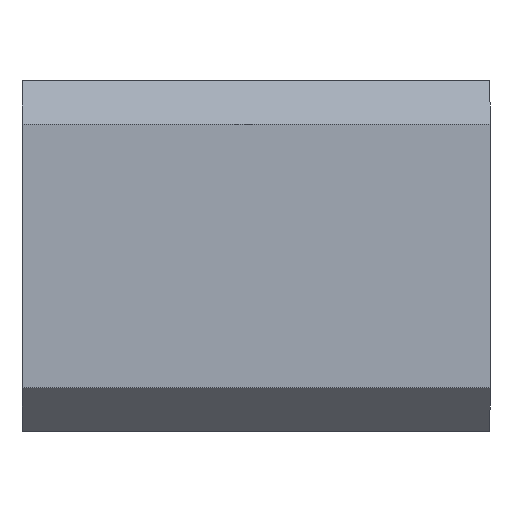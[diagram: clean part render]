
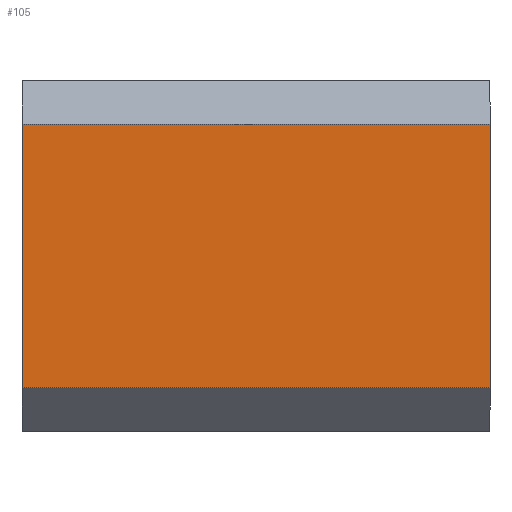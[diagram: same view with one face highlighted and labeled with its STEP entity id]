
A CAD part, left-side view. The second image highlights one B-rep face of the part: STEP entity #105.
In plain terms, the highlighted planar face has unit normal (-1, 0, 0).
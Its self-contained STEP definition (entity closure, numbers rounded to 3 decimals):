
#1 = VERTEX_POINT ( 'NONE', #135 ) ;
#16 = VECTOR ( 'NONE', #372, 1000. ) ;
#72 = CARTESIAN_POINT ( 'NONE',  ( -32.255, -5.186, 6. ) ) ;
#101 = LINE ( 'NONE', #436, #359 ) ;
#105 = ADVANCED_FACE ( 'NONE', ( #117 ), #510, .T. ) ;
#117 = FACE_OUTER_BOUND ( 'NONE', #138, .T. ) ;
#131 = ORIENTED_EDGE ( 'NONE', *, *, #442, .F. ) ;
#135 = CARTESIAN_POINT ( 'NONE',  ( -32.255, 10.814, 1.5 ) ) ;
#138 = EDGE_LOOP ( 'NONE', ( #230, #240, #597, #131 ) ) ;
#156 = CARTESIAN_POINT ( 'NONE',  ( -32.255, 10.814, 10.5 ) ) ;
#188 = EDGE_CURVE ( 'NONE', #1, #395, #422, .T. ) ;
#230 = ORIENTED_EDGE ( 'NONE', *, *, #188, .F. ) ;
#240 = ORIENTED_EDGE ( 'NONE', *, *, #584, .T. ) ;
#260 = LINE ( 'NONE', #72, #16 ) ;
#268 = VECTOR ( 'NONE', #604, 1000. ) ;
#293 = CARTESIAN_POINT ( 'NONE',  ( -32.255, 10.814, 6. ) ) ;
#316 = AXIS2_PLACEMENT_3D ( 'NONE', #495, #610, #522 ) ;
#317 = DIRECTION ( 'NONE',  ( 0., -1., 0. ) ) ;
#327 = VERTEX_POINT ( 'NONE', #567 ) ;
#332 = LINE ( 'NONE', #446, #268 ) ;
#359 = VECTOR ( 'NONE', #317, 1000. ) ;
#372 = DIRECTION ( 'NONE',  ( 0., 0., -1. ) ) ;
#381 = DIRECTION ( 'NONE',  ( 0., 0., 1. ) ) ;
#394 = EDGE_CURVE ( 'NONE', #327, #408, #260, .T. ) ;
#395 = VERTEX_POINT ( 'NONE', #156 ) ;
#408 = VERTEX_POINT ( 'NONE', #598 ) ;
#422 = LINE ( 'NONE', #293, #433 ) ;
#433 = VECTOR ( 'NONE', #381, 1000. ) ;
#436 = CARTESIAN_POINT ( 'NONE',  ( -32.255, 2.814, 10.5 ) ) ;
#442 = EDGE_CURVE ( 'NONE', #395, #327, #101, .T. ) ;
#446 = CARTESIAN_POINT ( 'NONE',  ( -32.255, 2.814, 1.5 ) ) ;
#495 = CARTESIAN_POINT ( 'NONE',  ( -32.255, -5.186, 1.5 ) ) ;
#510 = PLANE ( 'NONE',  #316 ) ;
#522 = DIRECTION ( 'NONE',  ( 0., 0., 1. ) ) ;
#567 = CARTESIAN_POINT ( 'NONE',  ( -32.255, -5.186, 10.5 ) ) ;
#584 = EDGE_CURVE ( 'NONE', #1, #408, #332, .T. ) ;
#597 = ORIENTED_EDGE ( 'NONE', *, *, #394, .F. ) ;
#598 = CARTESIAN_POINT ( 'NONE',  ( -32.255, -5.186, 1.5 ) ) ;
#604 = DIRECTION ( 'NONE',  ( 0., -1., 0. ) ) ;
#610 = DIRECTION ( 'NONE',  ( -1., 0., 0. ) ) ;
